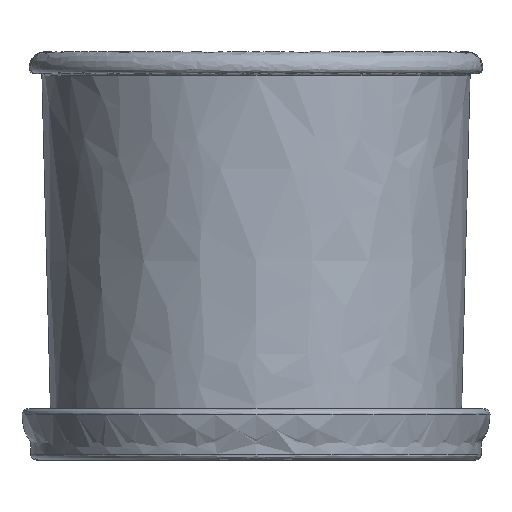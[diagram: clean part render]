
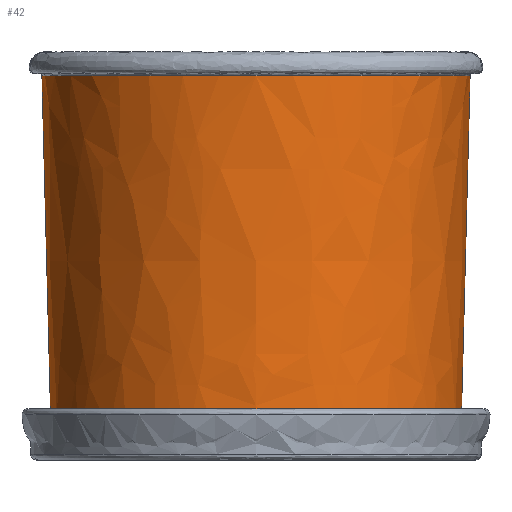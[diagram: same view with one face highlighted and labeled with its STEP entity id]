
A CAD part, front view. The second image highlights one B-rep face of the part: STEP entity #42.
In plain terms, the highlighted free-form (B-spline) face has degree [2, 2] with [5, 3] control points.
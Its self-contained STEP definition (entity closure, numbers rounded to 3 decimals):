
#12=B_SPLINE_CURVE_WITH_KNOTS('',2,(#1934,#1935,#1936),.UNSPECIFIED.,.F.,
 .F.,(3,3),(137.5,428.454),.UNSPECIFIED.);
#16=B_SPLINE_CURVE_WITH_KNOTS('',2,(#1970,#1971,#1972),.UNSPECIFIED.,.F.,
 .F.,(3,3),(137.5,428.454),.UNSPECIFIED.);
#42=ADVANCED_FACE('',(#68),#351,.T.);
#68=FACE_OUTER_BOUND('',#94,.T.);
#94=EDGE_LOOP('',(#170,#171,#172,#173));
#170=ORIENTED_EDGE('',*,*,#242,.T.);
#171=ORIENTED_EDGE('',*,*,#228,.F.);
#172=ORIENTED_EDGE('',*,*,#234,.F.);
#173=ORIENTED_EDGE('',*,*,#233,.T.);
#228=EDGE_CURVE('',#329,#335,#265,.T.);
#233=EDGE_CURVE('',#332,#338,#268,.T.);
#234=EDGE_CURVE('',#332,#329,#12,.T.);
#242=EDGE_CURVE('',#338,#335,#16,.T.);
#265=TRIMMED_CURVE($,#292,(#1905),(#1906),.T.,.CARTESIAN.);
#268=TRIMMED_CURVE($,#295,(#1932),(#1933),.T.,.CARTESIAN.);
#292=CIRCLE('',#482,146.364);
#295=CIRCLE('',#485,139.898);
#329=VERTEX_POINT('',#1894);
#332=VERTEX_POINT('',#1897);
#335=VERTEX_POINT('',#1900);
#338=VERTEX_POINT('',#1903);
#351=(
BOUNDED_SURFACE()
B_SPLINE_SURFACE(2,2,((#1770,#1771,#1772),(#1773,#1774,#1775),(#1776,#1777,
#1778),(#1779,#1780,#1781),(#1782,#1783,#1784)),.UNSPECIFIED.,.F.,.F.,.F.)
B_SPLINE_SURFACE_WITH_KNOTS((3,2,3),(3,3),(0.,229.907,459.815),
(137.5,428.454),.UNSPECIFIED.)
GEOMETRIC_REPRESENTATION_ITEM()
RATIONAL_B_SPLINE_SURFACE(((1.,1.,1.),(0.707,0.707,
0.707),(1.,1.,1.),(0.707,0.707,0.707),
(1.,1.,1.)))
REPRESENTATION_ITEM('')
SURFACE()
);
#482=AXIS2_PLACEMENT_3D($,#1904,#541,#542);
#485=AXIS2_PLACEMENT_3D($,#1931,#547,#548);
#541=DIRECTION('',(0.,0.,1.));
#542=DIRECTION('',(-1.,0.,0.));
#547=DIRECTION('',(0.,0.,1.));
#548=DIRECTION('',(-1.,0.,0.));
#1770=CARTESIAN_POINT('',(208.102,0.,9.));
#1771=CARTESIAN_POINT('',(206.068,0.,135.795));
#1772=CARTESIAN_POINT('',(201.636,0.,262.591));
#1773=CARTESIAN_POINT('',(208.102,-139.898,9.));
#1774=CARTESIAN_POINT('',(206.068,-141.932,135.795));
#1775=CARTESIAN_POINT('',(201.636,-146.364,262.591));
#1776=CARTESIAN_POINT('',(348.,-139.898,9.));
#1777=CARTESIAN_POINT('',(348.,-141.932,135.795));
#1778=CARTESIAN_POINT('',(348.,-146.364,262.591));
#1779=CARTESIAN_POINT('',(487.898,-139.898,9.));
#1780=CARTESIAN_POINT('',(489.932,-141.932,135.795));
#1781=CARTESIAN_POINT('',(494.364,-146.364,262.591));
#1782=CARTESIAN_POINT('',(487.898,0.,9.));
#1783=CARTESIAN_POINT('',(489.932,0.,135.795));
#1784=CARTESIAN_POINT('',(494.364,0.,262.591));
#1894=CARTESIAN_POINT('',(201.636,0.,262.591));
#1897=CARTESIAN_POINT('',(208.102,0.,9.));
#1900=CARTESIAN_POINT('',(494.364,0.,262.591));
#1903=CARTESIAN_POINT('',(487.898,0.,9.));
#1904=CARTESIAN_POINT('',(348.,0.,262.591));
#1905=CARTESIAN_POINT('',(201.636,0.,262.591));
#1906=CARTESIAN_POINT('',(494.364,0.,262.591));
#1931=CARTESIAN_POINT('',(348.,0.,9.));
#1932=CARTESIAN_POINT('',(208.102,0.,9.));
#1933=CARTESIAN_POINT('',(487.898,0.,9.));
#1934=CARTESIAN_POINT('',(208.102,0.,9.));
#1935=CARTESIAN_POINT('',(206.068,0.,135.795));
#1936=CARTESIAN_POINT('',(201.636,0.,262.591));
#1970=CARTESIAN_POINT('',(487.898,0.,9.));
#1971=CARTESIAN_POINT('',(489.932,0.,135.795));
#1972=CARTESIAN_POINT('',(494.364,0.,262.591));
